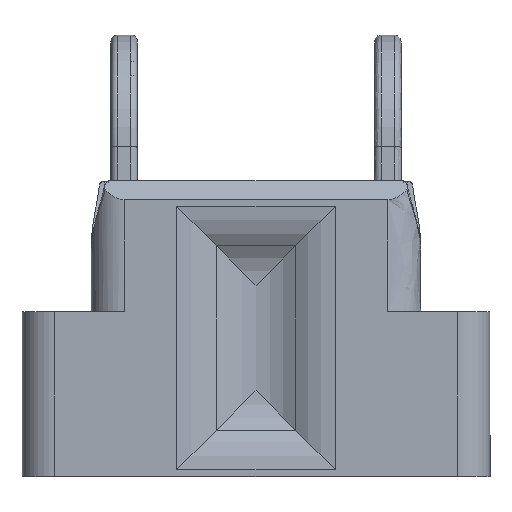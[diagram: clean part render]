
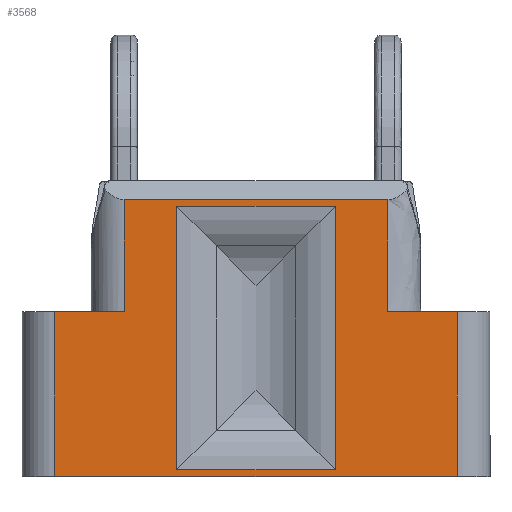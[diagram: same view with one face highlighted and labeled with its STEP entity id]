
A CAD part, top view. The second image highlights one B-rep face of the part: STEP entity #3568.
In plain terms, the highlighted planar face has unit normal (0, 0, 1).
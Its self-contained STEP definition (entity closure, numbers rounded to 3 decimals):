
#479=CARTESIAN_POINT('',(-5.5,41.382,50.));
#480=VERTEX_POINT('',#479);
#498=CARTESIAN_POINT('',(-5.5,16.382,50.));
#499=VERTEX_POINT('',#498);
#507=CARTESIAN_POINT('',(-5.5,16.382,50.));
#508=DIRECTION('',(0.0,1.0,0.0));
#509=VECTOR('',#508,25.);
#510=LINE('',#507,#509);
#511=EDGE_CURVE('',#499,#480,#510,.T.);
#553=CARTESIAN_POINT('',(5.,41.382,50.));
#554=VERTEX_POINT('',#553);
#555=CARTESIAN_POINT('',(5.,41.382,50.));
#556=DIRECTION('',(-1.0,0.0,0.0));
#557=VECTOR('',#556,10.5);
#558=LINE('',#555,#557);
#559=EDGE_CURVE('',#554,#480,#558,.T.);
#656=CARTESIAN_POINT('',(55.5,41.382,50.));
#657=VERTEX_POINT('',#656);
#665=CARTESIAN_POINT('',(55.5,16.382,50.));
#666=VERTEX_POINT('',#665);
#667=CARTESIAN_POINT('',(55.5,16.382,50.));
#668=DIRECTION('',(0.0,1.0,0.0));
#669=VECTOR('',#668,25.0);
#670=LINE('',#667,#669);
#671=EDGE_CURVE('',#666,#657,#670,.T.);
#698=CARTESIAN_POINT('',(45.,41.382,50.));
#699=VERTEX_POINT('',#698);
#707=CARTESIAN_POINT('',(55.5,41.382,50.));
#708=DIRECTION('',(-1.0,0.0,0.0));
#709=VECTOR('',#708,10.5);
#710=LINE('',#707,#709);
#711=EDGE_CURVE('',#657,#699,#710,.T.);
#958=CARTESIAN_POINT('',(55.5,16.382,50.));
#959=DIRECTION('',(-1.0,0.0,0.0));
#960=VECTOR('',#959,61.);
#961=LINE('',#958,#960);
#962=EDGE_CURVE('',#666,#499,#961,.T.);
#1393=CARTESIAN_POINT('',(5.,58.363,50.));
#1394=VERTEX_POINT('',#1393);
#1395=CARTESIAN_POINT('',(5.,41.382,50.));
#1396=DIRECTION('',(0.0,1.0,0.0));
#1397=VECTOR('',#1396,16.981);
#1398=LINE('',#1395,#1397);
#1399=EDGE_CURVE('',#554,#1394,#1398,.T.);
#1470=CARTESIAN_POINT('',(45.,58.363,50.));
#1471=VERTEX_POINT('',#1470);
#1479=CARTESIAN_POINT('',(45.,41.382,50.));
#1480=DIRECTION('',(0.0,1.0,0.0));
#1481=VECTOR('',#1480,16.981);
#1482=LINE('',#1479,#1481);
#1483=EDGE_CURVE('',#699,#1471,#1482,.T.);
#2869=CARTESIAN_POINT('',(37.,57.363,50.));
#2870=VERTEX_POINT('',#2869);
#2886=CARTESIAN_POINT('',(37.,17.382,50.));
#2887=VERTEX_POINT('',#2886);
#2895=CARTESIAN_POINT('',(37.,57.363,50.));
#2896=DIRECTION('',(0.0,-1.0,0.0));
#2897=VECTOR('',#2896,39.981);
#2898=LINE('',#2895,#2897);
#2899=EDGE_CURVE('',#2870,#2887,#2898,.T.);
#3523=CARTESIAN_POINT('',(150.,-8.618,50.0));
#3524=DIRECTION('',(0.0,0.0,1.0));
#3525=DIRECTION('',(0.0,1.0,0.0));
#3526=AXIS2_PLACEMENT_3D('',#3523,#3524,#3525);
#3527=PLANE('',#3526);
#3528=ORIENTED_EDGE('',*,*,#962,.F.);
#3529=ORIENTED_EDGE('',*,*,#671,.T.);
#3530=ORIENTED_EDGE('',*,*,#711,.T.);
#3531=ORIENTED_EDGE('',*,*,#1483,.T.);
#3532=CARTESIAN_POINT('',(45.,58.363,50.));
#3533=DIRECTION('',(-1.0,0.0,0.0));
#3534=VECTOR('',#3533,40.);
#3535=LINE('',#3532,#3534);
#3536=EDGE_CURVE('',#1471,#1394,#3535,.T.);
#3537=ORIENTED_EDGE('',*,*,#3536,.T.);
#3538=ORIENTED_EDGE('',*,*,#1399,.F.);
#3539=ORIENTED_EDGE('',*,*,#559,.T.);
#3540=ORIENTED_EDGE('',*,*,#511,.F.);
#3541=EDGE_LOOP('',(#3528,#3529,#3530,#3531,#3537,#3538,#3539,#3540));
#3542=FACE_OUTER_BOUND('',#3541,.T.);
#3543=CARTESIAN_POINT('',(13.,17.382,50.));
#3544=VERTEX_POINT('',#3543);
#3545=CARTESIAN_POINT('',(37.,17.382,50.));
#3546=DIRECTION('',(-1.0,0.0,0.0));
#3547=VECTOR('',#3546,24.);
#3548=LINE('',#3545,#3547);
#3549=EDGE_CURVE('',#2887,#3544,#3548,.T.);
#3550=ORIENTED_EDGE('',*,*,#3549,.T.);
#3551=CARTESIAN_POINT('',(13.,57.363,50.));
#3552=VERTEX_POINT('',#3551);
#3553=CARTESIAN_POINT('',(13.,57.363,50.));
#3554=DIRECTION('',(0.0,-1.0,0.0));
#3555=VECTOR('',#3554,39.981);
#3556=LINE('',#3553,#3555);
#3557=EDGE_CURVE('',#3552,#3544,#3556,.T.);
#3558=ORIENTED_EDGE('',*,*,#3557,.F.);
#3559=CARTESIAN_POINT('',(37.,57.363,50.));
#3560=DIRECTION('',(-1.0,0.0,0.0));
#3561=VECTOR('',#3560,24.);
#3562=LINE('',#3559,#3561);
#3563=EDGE_CURVE('',#2870,#3552,#3562,.T.);
#3564=ORIENTED_EDGE('',*,*,#3563,.F.);
#3565=ORIENTED_EDGE('',*,*,#2899,.T.);
#3566=EDGE_LOOP('',(#3550,#3558,#3564,#3565));
#3567=FACE_BOUND('',#3566,.T.);
#3568=ADVANCED_FACE('',(#3542,#3567),#3527,.T.);
